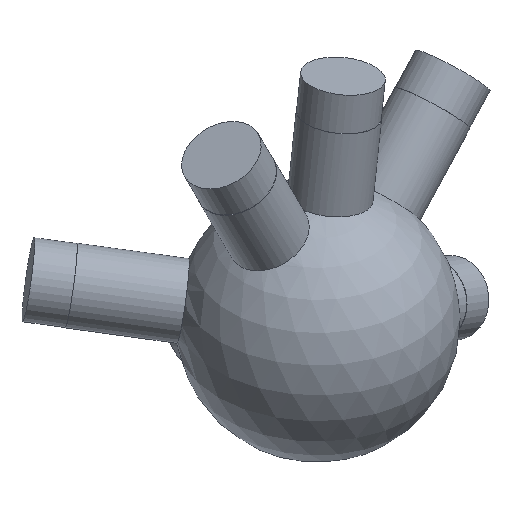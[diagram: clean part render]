
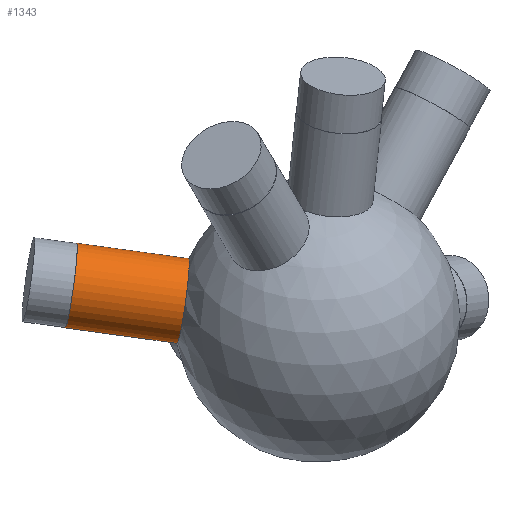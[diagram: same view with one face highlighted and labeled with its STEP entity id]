
A CAD part, isometric view. The second image highlights one B-rep face of the part: STEP entity #1343.
In plain terms, the highlighted cylindrical face has radius 6 mm (diameter 12 mm), a full revolution.
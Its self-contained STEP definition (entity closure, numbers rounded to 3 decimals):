
#33 = SPHERICAL_SURFACE('',#34,20.);
#34 = AXIS2_PLACEMENT_3D('',#35,#36,#37);
#35 = CARTESIAN_POINT('',(0.,0.,0.));
#36 = DIRECTION('',(0.,0.,1.));
#37 = DIRECTION('',(1.,0.,-0.));
#876 = EDGE_CURVE('',#877,#877,#879,.T.);
#877 = VERTEX_POINT('',#878);
#878 = CARTESIAN_POINT('',(-8.654,17.806,
    2.837));
#879 = SURFACE_CURVE('',#880,(#885,#947),.PCURVE_S1.);
#880 = CIRCLE('',#881,6.);
#881 = AXIS2_PLACEMENT_3D('',#882,#883,#884);
#882 = CARTESIAN_POINT('',(-13.002,13.671,
    2.837));
#883 = DIRECTION('',(-0.681,0.717,0.149));
#884 = DIRECTION('',(-0.725,-0.689,0.)
  );
#885 = PCURVE('',#33,#886);
#886 = DEFINITIONAL_REPRESENTATION('',(#887),#946);
#887 = B_SPLINE_CURVE_WITH_KNOTS('',8,(#888,#889,#890,#891,#892,#893,
    #894,#895,#896,#897,#898,#899,#900,#901,#902,#903,#904,#905,#906,
    #907,#908,#909,#910,#911,#912,#913,#914,#915,#916,#917,#918,#919,
    #920,#921,#922,#923,#924,#925,#926,#927,#928,#929,#930,#931,#932,
    #933,#934,#935,#936,#937,#938,#939,#940,#941,#942,#943,#944,#945),
  .UNSPECIFIED.,.F.,.F.,(9,7,7,7,7,7,7,7,9),(3.142,
    3.927,4.614,5.216,6.268,
    7.057,7.649,8.537,9.425),
  .UNSPECIFIED.);
#888 = CARTESIAN_POINT('',(2.023,0.142));
#889 = CARTESIAN_POINT('',(2.025,0.113));
#890 = CARTESIAN_POINT('',(2.029,0.084));
#891 = CARTESIAN_POINT('',(2.037,0.055));
#892 = CARTESIAN_POINT('',(2.047,0.027));
#893 = CARTESIAN_POINT('',(2.061,0.001));
#894 = CARTESIAN_POINT('',(2.077,-0.024));
#895 = CARTESIAN_POINT('',(2.096,-0.047));
#896 = CARTESIAN_POINT('',(2.135,-0.086));
#897 = CARTESIAN_POINT('',(2.155,-0.102));
#898 = CARTESIAN_POINT('',(2.177,-0.117));
#899 = CARTESIAN_POINT('',(2.2,-0.129));
#900 = CARTESIAN_POINT('',(2.225,-0.139));
#901 = CARTESIAN_POINT('',(2.25,-0.146));
#902 = CARTESIAN_POINT('',(2.275,-0.151));
#903 = CARTESIAN_POINT('',(2.324,-0.156));
#904 = CARTESIAN_POINT('',(2.347,-0.156));
#905 = CARTESIAN_POINT('',(2.37,-0.155));
#906 = CARTESIAN_POINT('',(2.393,-0.151));
#907 = CARTESIAN_POINT('',(2.415,-0.146));
#908 = CARTESIAN_POINT('',(2.437,-0.138));
#909 = CARTESIAN_POINT('',(2.457,-0.129));
#910 = CARTESIAN_POINT('',(2.512,-0.099));
#911 = CARTESIAN_POINT('',(2.544,-0.075));
#912 = CARTESIAN_POINT('',(2.572,-0.047));
#913 = CARTESIAN_POINT('',(2.596,-0.014));
#914 = CARTESIAN_POINT('',(2.615,0.022));
#915 = CARTESIAN_POINT('',(2.628,0.059));
#916 = CARTESIAN_POINT('',(2.636,0.098));
#917 = CARTESIAN_POINT('',(2.641,0.167));
#918 = CARTESIAN_POINT('',(2.639,0.197));
#919 = CARTESIAN_POINT('',(2.634,0.227));
#920 = CARTESIAN_POINT('',(2.626,0.255));
#921 = CARTESIAN_POINT('',(2.615,0.283));
#922 = CARTESIAN_POINT('',(2.601,0.31));
#923 = CARTESIAN_POINT('',(2.583,0.334));
#924 = CARTESIAN_POINT('',(2.547,0.373));
#925 = CARTESIAN_POINT('',(2.529,0.389));
#926 = CARTESIAN_POINT('',(2.511,0.403));
#927 = CARTESIAN_POINT('',(2.49,0.416));
#928 = CARTESIAN_POINT('',(2.469,0.426));
#929 = CARTESIAN_POINT('',(2.446,0.435));
#930 = CARTESIAN_POINT('',(2.423,0.442));
#931 = CARTESIAN_POINT('',(2.363,0.455));
#932 = CARTESIAN_POINT('',(2.326,0.457));
#933 = CARTESIAN_POINT('',(2.288,0.456));
#934 = CARTESIAN_POINT('',(2.251,0.449));
#935 = CARTESIAN_POINT('',(2.215,0.438));
#936 = CARTESIAN_POINT('',(2.182,0.423));
#937 = CARTESIAN_POINT('',(2.152,0.404));
#938 = CARTESIAN_POINT('',(2.099,0.359));
#939 = CARTESIAN_POINT('',(2.076,0.333));
#940 = CARTESIAN_POINT('',(2.057,0.305));
#941 = CARTESIAN_POINT('',(2.042,0.274));
#942 = CARTESIAN_POINT('',(2.031,0.242));
#943 = CARTESIAN_POINT('',(2.024,0.209));
#944 = CARTESIAN_POINT('',(2.022,0.176));
#945 = CARTESIAN_POINT('',(2.023,0.142));
#946 = ( GEOMETRIC_REPRESENTATION_CONTEXT(2) 
PARAMETRIC_REPRESENTATION_CONTEXT() REPRESENTATION_CONTEXT('2D SPACE',''
  ) );
#947 = PCURVE('',#948,#953);
#948 = CYLINDRICAL_SURFACE('',#949,6.);
#949 = AXIS2_PLACEMENT_3D('',#950,#951,#952);
#950 = CARTESIAN_POINT('',(0.,0.,0.));
#951 = DIRECTION('',(-0.681,0.717,0.149));
#952 = DIRECTION('',(0.725,0.689,0.)
  );
#953 = DEFINITIONAL_REPRESENTATION('',(#954),#958);
#954 = LINE('',#955,#956);
#955 = CARTESIAN_POINT('',(-3.142,19.079));
#956 = VECTOR('',#957,1.);
#957 = DIRECTION('',(1.,0.));
#958 = ( GEOMETRIC_REPRESENTATION_CONTEXT(2) 
PARAMETRIC_REPRESENTATION_CONTEXT() REPRESENTATION_CONTEXT('2D SPACE',''
  ) );
#1343 = ADVANCED_FACE('',(#1344),#948,.T.);
#1344 = FACE_BOUND('',#1345,.T.);
#1345 = EDGE_LOOP('',(#1346,#1369,#1396,#1397));
#1346 = ORIENTED_EDGE('',*,*,#1347,.T.);
#1347 = EDGE_CURVE('',#877,#1348,#1350,.T.);
#1348 = VERTEX_POINT('',#1349);
#1349 = CARTESIAN_POINT('',(-19.45,29.157,5.193
    ));
#1350 = SEAM_CURVE('',#1351,(#1355,#1362),.PCURVE_S1.);
#1351 = LINE('',#1352,#1353);
#1352 = CARTESIAN_POINT('',(4.348,4.135,
    0.));
#1353 = VECTOR('',#1354,1.);
#1354 = DIRECTION('',(-0.681,0.717,0.149));
#1355 = PCURVE('',#948,#1356);
#1356 = DEFINITIONAL_REPRESENTATION('',(#1357),#1361);
#1357 = LINE('',#1358,#1359);
#1358 = CARTESIAN_POINT('',(6.283,-0.));
#1359 = VECTOR('',#1360,1.);
#1360 = DIRECTION('',(0.,1.));
#1361 = ( GEOMETRIC_REPRESENTATION_CONTEXT(2) 
PARAMETRIC_REPRESENTATION_CONTEXT() REPRESENTATION_CONTEXT('2D SPACE',''
  ) );
#1362 = PCURVE('',#948,#1363);
#1363 = DEFINITIONAL_REPRESENTATION('',(#1364),#1368);
#1364 = LINE('',#1365,#1366);
#1365 = CARTESIAN_POINT('',(0.,-0.));
#1366 = VECTOR('',#1367,1.);
#1367 = DIRECTION('',(0.,1.));
#1368 = ( GEOMETRIC_REPRESENTATION_CONTEXT(2) 
PARAMETRIC_REPRESENTATION_CONTEXT() REPRESENTATION_CONTEXT('2D SPACE',''
  ) );
#1369 = ORIENTED_EDGE('',*,*,#1370,.F.);
#1370 = EDGE_CURVE('',#1348,#1348,#1371,.T.);
#1371 = SURFACE_CURVE('',#1372,(#1377,#1384),.PCURVE_S1.);
#1372 = CIRCLE('',#1373,6.);
#1373 = AXIS2_PLACEMENT_3D('',#1374,#1375,#1376);
#1374 = CARTESIAN_POINT('',(-23.797,25.022,
    5.193));
#1375 = DIRECTION('',(-0.681,0.717,0.149));
#1376 = DIRECTION('',(0.725,0.689,0.)
  );
#1377 = PCURVE('',#948,#1378);
#1378 = DEFINITIONAL_REPRESENTATION('',(#1379),#1383);
#1379 = LINE('',#1380,#1381);
#1380 = CARTESIAN_POINT('',(0.,34.92));
#1381 = VECTOR('',#1382,1.);
#1382 = DIRECTION('',(1.,0.));
#1383 = ( GEOMETRIC_REPRESENTATION_CONTEXT(2) 
PARAMETRIC_REPRESENTATION_CONTEXT() REPRESENTATION_CONTEXT('2D SPACE',''
  ) );
#1384 = PCURVE('',#1385,#1390);
#1385 = PLANE('',#1386);
#1386 = AXIS2_PLACEMENT_3D('',#1387,#1388,#1389);
#1387 = CARTESIAN_POINT('',(-23.797,25.022,
    5.193));
#1388 = DIRECTION('',(-0.681,0.717,0.149));
#1389 = DIRECTION('',(0.725,0.689,0.)
  );
#1390 = DEFINITIONAL_REPRESENTATION('',(#1391),#1395);
#1391 = CIRCLE('',#1392,6.);
#1392 = AXIS2_PLACEMENT_2D('',#1393,#1394);
#1393 = CARTESIAN_POINT('',(0.,0.));
#1394 = DIRECTION('',(1.,0.));
#1395 = ( GEOMETRIC_REPRESENTATION_CONTEXT(2) 
PARAMETRIC_REPRESENTATION_CONTEXT() REPRESENTATION_CONTEXT('2D SPACE',''
  ) );
#1396 = ORIENTED_EDGE('',*,*,#1347,.F.);
#1397 = ORIENTED_EDGE('',*,*,#876,.T.);
